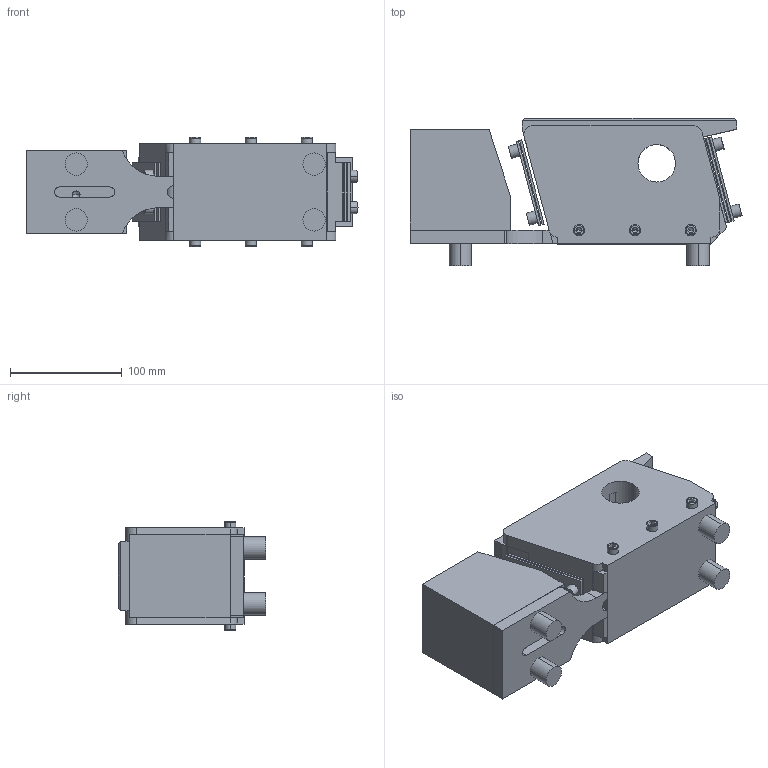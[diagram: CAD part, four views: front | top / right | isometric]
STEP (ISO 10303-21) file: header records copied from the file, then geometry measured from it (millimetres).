
FILE_DESCRIPTION (( 'STEP AP203' ), '1' );
FILE_NAME ('ZX190 ¸Ä¿î.STEP', '2025-06-02T02:39:02', ( '' ), ( '' ), 'SwSTEP 2.0', 'SolidWorks 2022', '' );
FILE_SCHEMA (( 'CONFIG_CONTROL_DESIGN' ));
Length unit declared in the file: millimetre
Products named in the file (1): ZX190 蜊遴
Bounding box: 297.37 x 132.28 x 98 mm (x, y, z)
Volume: 2324671.8 mm3; surface area: 254287.6 mm2
Topology: 26 solids, 26 shells, 468 faces, 1123 edges, 694 vertices
Faces by surface type: plane 215, cylinder 182, cone 59, torus 12
Entity records: 13680 total; most frequent: CARTESIAN_POINT 2544, DIRECTION 2420, ORIENTED_EDGE 2158, EDGE_CURVE 1079, AXIS2_PLACEMENT_3D 903, VERTEX_POINT 694, LINE 614, VECTOR 614
